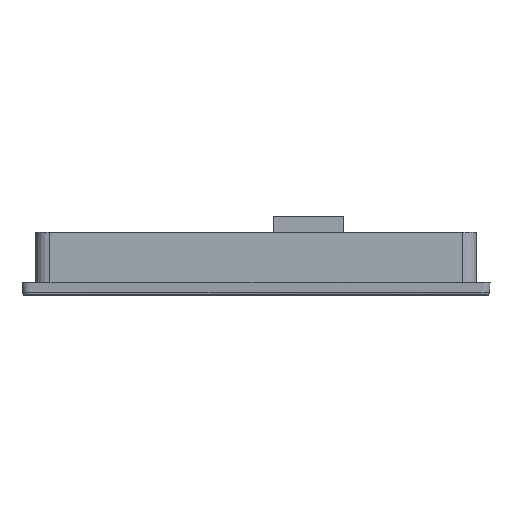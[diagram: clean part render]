
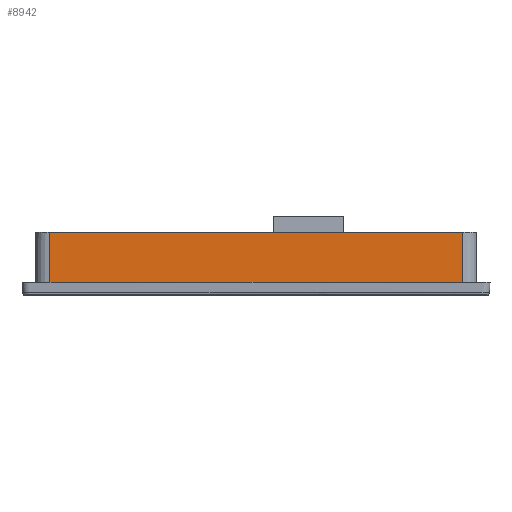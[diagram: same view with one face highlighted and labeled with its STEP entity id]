
A CAD part, left-side view. The second image highlights one B-rep face of the part: STEP entity #8942.
In plain terms, the highlighted planar face has unit normal (-1, 0, 0.01).
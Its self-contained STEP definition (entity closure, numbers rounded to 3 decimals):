
#8942=ADVANCED_FACE('',(#10508),#9920,.T.);
#9920=PLANE('',#27010);
#10508=FACE_OUTER_BOUND('',#11477,.T.);
#11477=EDGE_LOOP('',(#13546,#13547,#13548,#13549));
#13546=ORIENTED_EDGE('',*,*,#21065,.T.);
#13547=ORIENTED_EDGE('',*,*,#20685,.T.);
#13548=ORIENTED_EDGE('',*,*,#21066,.F.);
#13549=ORIENTED_EDGE('',*,*,#20818,.F.);
#18739=VERTEX_POINT('',#34745);
#18740=VERTEX_POINT('',#34747);
#18843=VERTEX_POINT('',#35933);
#18844=VERTEX_POINT('',#35935);
#20685=EDGE_CURVE('',#18740,#18739,#23485,.T.);
#20818=EDGE_CURVE('',#18843,#18844,#23542,.T.);
#21065=EDGE_CURVE('',#18843,#18740,#23732,.T.);
#21066=EDGE_CURVE('',#18844,#18739,#23733,.T.);
#23485=LINE('',#34746,#25278);
#23542=LINE('',#35934,#25335);
#23732=LINE('',#36785,#25525);
#23733=LINE('',#36788,#25526);
#25278=VECTOR('',#29071,1.);
#25335=VECTOR('',#29272,1.);
#25525=VECTOR('',#29554,1.);
#25526=VECTOR('',#29559,1.);
#27010=AXIS2_PLACEMENT_3D('',#36794,#29568,#29569);
#29071=DIRECTION('',(0.,-1.,0.));
#29272=DIRECTION('',(0.,-1.,0.));
#29554=DIRECTION('',(-0.01,0.,-1.));
#29559=DIRECTION('',(-0.01,0.,-1.));
#29568=DIRECTION('',(-1.,0.,0.01));
#29569=DIRECTION('',(-0.01,0.,-1.));
#34745=CARTESIAN_POINT('',(-132.7,-78.6,3.));
#34746=CARTESIAN_POINT('',(-132.7,84.,3.));
#34747=CARTESIAN_POINT('',(-132.7,78.6,3.));
#35933=CARTESIAN_POINT('',(-132.498,78.6,24.));
#35934=CARTESIAN_POINT('',(-132.498,78.6,24.));
#35935=CARTESIAN_POINT('',(-132.498,-78.6,24.));
#36785=CARTESIAN_POINT('',(-132.7,78.6,3.));
#36788=CARTESIAN_POINT('',(-132.7,-78.6,3.));
#36794=CARTESIAN_POINT('',(-132.7,78.6,3.));
